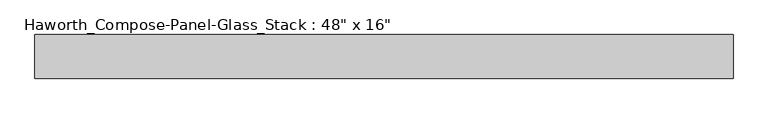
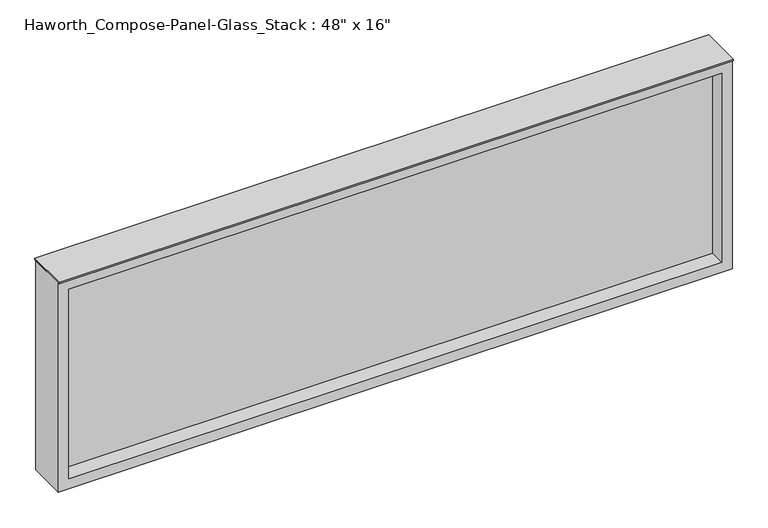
"""IFC4 building model written with IfcOpenShell, lengths in millimetres: furniture geometry."""

from ifc_helpers import new_model, si_unit, frame, origin, place, context, project, spatial, polyline, outline, extrude, source, transform, mapped, element, save


def furniture_2538487b(model_context):
    return source(origin(), model_context, "Body", "SweptSolid", [
        extrude(outline(polyline([(592.9902902, -6.35), (-588.1097098, -6.35), (-588.1097098, 6.35), (592.9902902, 6.35), (592.9902902, -6.35)])), frame((0.0, 0.0, 1085.85), z_axis=(0.0, 0.0, 1.0), x_axis=(1.0, 0.0, 0.0)), (0.0, 0.0, 1.0), 361.95),
        extrude(outline(polyline([(1466.85, -607.1597098), (1066.8, -607.1597098), (1066.8, 612.0402902), (1466.85, 612.0402902), (1466.85, -607.1597098)]), holes=[polyline([(1447.8, 592.9902902), (1085.85, 592.9902902), (1085.85, -588.1097098), (1447.8, -588.1097098), (1447.8, 592.9902902)])]), frame((0.0, -34.925, 0.0), z_axis=(0.0, 1.0, 0.0), x_axis=(0.0, 0.0, 1.0)), (0.0, 0.0, 1.0), 69.85),
        extrude(outline(polyline([(-607.1597098, -38.1), (-607.1597098, 38.1), (612.0402902, 38.1), (612.0402902, -38.1), (-607.1597098, -38.1)])), frame((0.0, 0.0, 1466.85), z_axis=(0.0, 0.0, 1.0), x_axis=(1.0, 0.0, 0.0)), (0.0, 0.0, 1.0), 3.175),
    ])


if __name__ == "__main__":
    model = new_model("IFC4")
    model_context = context("Model", 3, world=origin())
    ifc_project = project(units=[si_unit("LENGTHUNIT", "METRE", prefix="MILLI")], contexts=[model_context])
    site = spatial("IfcSite", under=ifc_project)
    building = spatial("IfcBuilding", under=site)
    placement = place(None, origin())
    furniture_shape = furniture_2538487b(model_context)
    element("IfcFurniture", 1, ObjectType="Haworth_Compose-Panel-Glass_Stack : 48\" x 16\"", at=placement, inside=building, context=model_context, shape_type="MappedRepresentation", body=[
        mapped(furniture_shape, transform((0.0, 0.0, 0.0), x_axis=(1.0, 0.0, 0.0), y_axis=(0.0, 1.0, 0.0), z_axis=(0.0, 0.0, 1.0))),
    ])
    save(model, "model.ifc")
